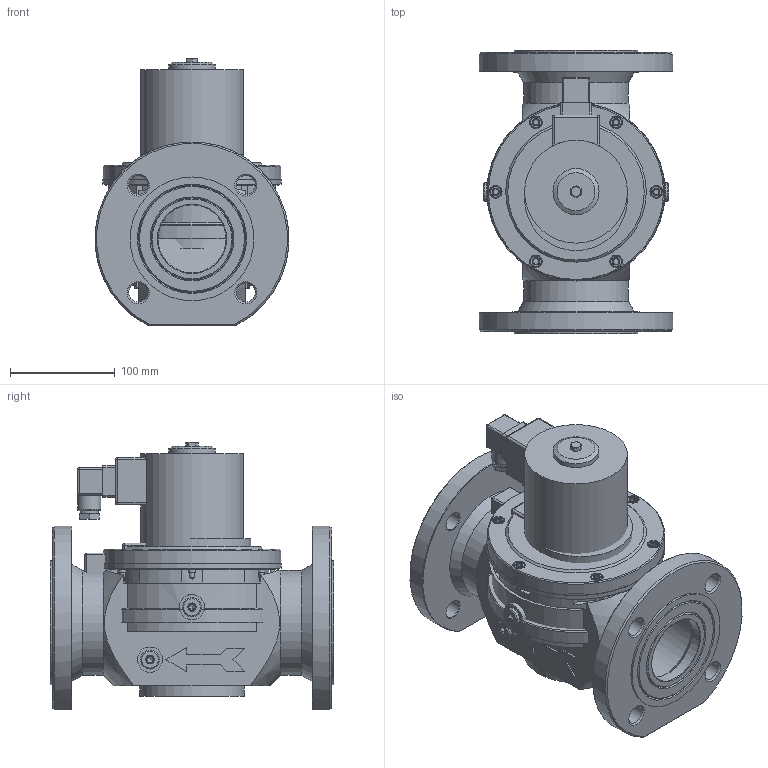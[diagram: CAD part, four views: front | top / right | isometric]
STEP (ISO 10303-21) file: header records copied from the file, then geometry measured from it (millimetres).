
FILE_DESCRIPTION( ( 'Unknown' ), '1' );
FILE_NAME( 'D:/Wyroby/Widoki gabarytowe/Zawory ZEF/ZEF_65k/ZEF_65k.stp', 'Unknown', ( 'Unknown' ), ( 'Unknown' ), 'XStep 1.0', 'Unknown', ' ' );
FILE_SCHEMA( ( 'CONFIG_CONTROL_DESIGN' ) );
Length unit declared in the file: millimetre
Products named in the file (51): Wa_065_01_05; Wa_067_01_00; Wa_067_01_02; Wa_053_01_04; Assem1; Wa_065_01_04; Wa_053_01_05; Wa_065_01_05bez_ko³ka; Ko³ek6x45; Wa_031_01_05_001got; Wa_065_01_04_001zaci從i黎y; Wa_053_01_02_002; Wa_044_01_04_002; Wa_086_01_00_002; Oring12x2彡i從i黎y1,6; Wa_065_01_02_004; Wa_044_01_02_004; Wa_044_01_04_003; Wa_031_01_00_007; Wa_031_01_00_008; Wa_014_01_00_003彡i從i黎y27,5; Wa_065_01_02_003zaci從i黎a; Wa_067_01_02bez_gniazda; Wa_053_01_01_001gotowe_ZEF; Wa_031_01_04_002got; Wa_031_01_04_001; Wa_065_01_00_001; Wa_031_01_00_005; Œ-006m6x12szeœc.; Œ-008ImbusM6x16; Wa_065_01_00_004; Wa_031_01_00_012; Wa_031_01_00_010; T-026; K-006got.; Wa_065_01_00_002彡i從i黎a35; Wa_031_01_00_002彡i從i黎a42,5; Wa_031_01_00_003; Cewka_40-65
Bounding box: 184.67 x 270 x 255.4 mm (x, y, z)
Volume: 3084964.9 mm3; surface area: 2261771.7 mm2
Topology: 153 solids, 157 shells, 2932 faces, 6395 edges, 4099 vertices
Faces by surface type: plane 1382, cylinder 843, cone 619, torus 61, sphere 21, bspline 6
Full cylindrical faces by diameter (mm): 1.5 x3, 2 x15, 2.1 x8, 2.5 x6, 3 x3, 3.5 x7, 4 x37, 4.2 x10, 4.917 x29, 5 x4, 6 x31, 6.2 x13, 6.5 x27, 6.6 x18, 8 x9, 10 x33, 10.917 x4, 11 x18, 11.445 x16, 12 x13, 12.1 x4, 13 x12, 13.8 x12, 14 x4, 16 x4, 17 x2, 18 x56, 18.5 x4, 18.7 x4, 22 x2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
Entity records: 26152 total; most frequent: CARTESIAN_POINT 7628, DIRECTION 3538, ORIENTED_EDGE 2570, AXIS2_PLACEMENT_3D 1542, EDGE_LOOP 1404, EDGE_CURVE 1285, FACE_OUTER_BOUND 1035, VERTEX_POINT 1030
